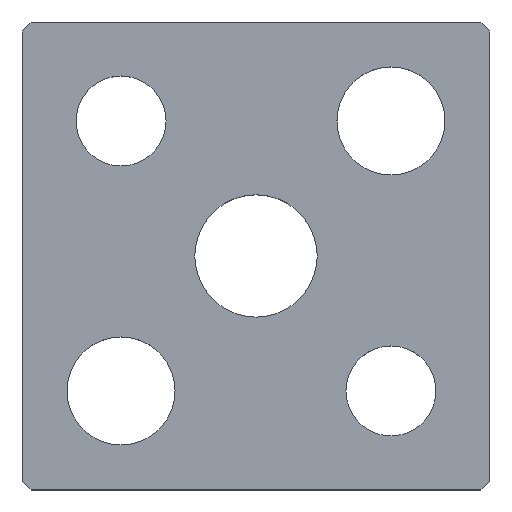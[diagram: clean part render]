
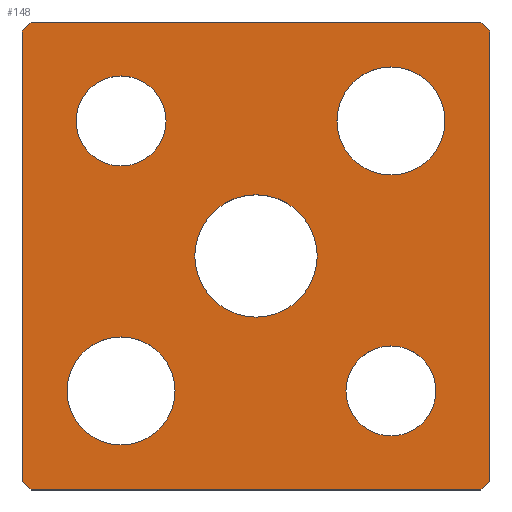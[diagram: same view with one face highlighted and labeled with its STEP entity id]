
A CAD part, top view. The second image highlights one B-rep face of the part: STEP entity #148.
In plain terms, the highlighted planar face has unit normal (0, 0, 1).
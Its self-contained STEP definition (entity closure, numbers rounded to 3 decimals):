
#117=CIRCLE('',#503,6.8);
#118=CIRCLE('',#504,6.8);
#119=CIRCLE('',#505,5.);
#120=CIRCLE('',#506,5.);
#121=CIRCLE('',#507,6.);
#122=CIRCLE('',#508,6.);
#123=CIRCLE('',#509,6.);
#124=CIRCLE('',#510,6.);
#125=CIRCLE('',#511,5.);
#126=CIRCLE('',#512,5.);
#133=FACE_BOUND('',#201,.T.);
#134=FACE_BOUND('',#202,.T.);
#135=FACE_BOUND('',#203,.T.);
#136=FACE_BOUND('',#204,.T.);
#137=FACE_BOUND('',#205,.T.);
#138=FACE_BOUND('',#206,.T.);
#148=ADVANCED_FACE('',(#133,#134,#135,#136,#137,#138),#168,.T.);
#168=PLANE('',#513);
#201=EDGE_LOOP('',(#267,#268,#269,#270,#271,#272,#273,#274));
#202=EDGE_LOOP('',(#275,#276));
#203=EDGE_LOOP('',(#277,#278));
#204=EDGE_LOOP('',(#279,#280));
#205=EDGE_LOOP('',(#281,#282));
#206=EDGE_LOOP('',(#283,#284));
#267=ORIENTED_EDGE('',*,*,#362,.T.);
#268=ORIENTED_EDGE('',*,*,#366,.T.);
#269=ORIENTED_EDGE('',*,*,#369,.T.);
#270=ORIENTED_EDGE('',*,*,#372,.T.);
#271=ORIENTED_EDGE('',*,*,#375,.T.);
#272=ORIENTED_EDGE('',*,*,#378,.T.);
#273=ORIENTED_EDGE('',*,*,#381,.T.);
#274=ORIENTED_EDGE('',*,*,#384,.T.);
#275=ORIENTED_EDGE('',*,*,#395,.T.);
#276=ORIENTED_EDGE('',*,*,#396,.T.);
#277=ORIENTED_EDGE('',*,*,#397,.T.);
#278=ORIENTED_EDGE('',*,*,#398,.T.);
#279=ORIENTED_EDGE('',*,*,#399,.T.);
#280=ORIENTED_EDGE('',*,*,#400,.T.);
#281=ORIENTED_EDGE('',*,*,#401,.T.);
#282=ORIENTED_EDGE('',*,*,#402,.T.);
#283=ORIENTED_EDGE('',*,*,#403,.T.);
#284=ORIENTED_EDGE('',*,*,#404,.T.);
#326=VERTEX_POINT('',#643);
#327=VERTEX_POINT('',#645);
#330=VERTEX_POINT('',#652);
#332=VERTEX_POINT('',#658);
#334=VERTEX_POINT('',#664);
#336=VERTEX_POINT('',#670);
#338=VERTEX_POINT('',#676);
#340=VERTEX_POINT('',#682);
#351=VERTEX_POINT('',#711);
#352=VERTEX_POINT('',#712);
#353=VERTEX_POINT('',#715);
#354=VERTEX_POINT('',#716);
#355=VERTEX_POINT('',#719);
#356=VERTEX_POINT('',#720);
#357=VERTEX_POINT('',#723);
#358=VERTEX_POINT('',#724);
#359=VERTEX_POINT('',#727);
#360=VERTEX_POINT('',#728);
#362=EDGE_CURVE('',#327,#326,#416,.T.);
#366=EDGE_CURVE('',#326,#330,#420,.T.);
#369=EDGE_CURVE('',#330,#332,#423,.T.);
#372=EDGE_CURVE('',#332,#334,#426,.T.);
#375=EDGE_CURVE('',#334,#336,#429,.T.);
#378=EDGE_CURVE('',#336,#338,#432,.T.);
#381=EDGE_CURVE('',#338,#340,#435,.T.);
#384=EDGE_CURVE('',#340,#327,#438,.T.);
#395=EDGE_CURVE('',#351,#352,#117,.T.);
#396=EDGE_CURVE('',#352,#351,#118,.T.);
#397=EDGE_CURVE('',#353,#354,#119,.T.);
#398=EDGE_CURVE('',#354,#353,#120,.T.);
#399=EDGE_CURVE('',#355,#356,#121,.T.);
#400=EDGE_CURVE('',#356,#355,#122,.T.);
#401=EDGE_CURVE('',#357,#358,#123,.T.);
#402=EDGE_CURVE('',#358,#357,#124,.T.);
#403=EDGE_CURVE('',#359,#360,#125,.T.);
#404=EDGE_CURVE('',#360,#359,#126,.T.);
#416=LINE('',#644,#450);
#420=LINE('',#653,#454);
#423=LINE('',#659,#457);
#426=LINE('',#665,#460);
#429=LINE('',#671,#463);
#432=LINE('',#677,#466);
#435=LINE('',#683,#469);
#438=LINE('',#687,#472);
#450=VECTOR('',#527,1.);
#454=VECTOR('',#533,1.);
#457=VECTOR('',#538,1.);
#460=VECTOR('',#543,1.);
#463=VECTOR('',#548,1.);
#466=VECTOR('',#553,1.);
#469=VECTOR('',#558,1.);
#472=VECTOR('',#563,1.);
#503=AXIS2_PLACEMENT_3D('',#710,#588,#589);
#504=AXIS2_PLACEMENT_3D('',#713,#590,#591);
#505=AXIS2_PLACEMENT_3D('',#714,#592,#593);
#506=AXIS2_PLACEMENT_3D('',#717,#594,#595);
#507=AXIS2_PLACEMENT_3D('',#718,#596,#597);
#508=AXIS2_PLACEMENT_3D('',#721,#598,#599);
#509=AXIS2_PLACEMENT_3D('',#722,#600,#601);
#510=AXIS2_PLACEMENT_3D('',#725,#602,#603);
#511=AXIS2_PLACEMENT_3D('',#726,#604,#605);
#512=AXIS2_PLACEMENT_3D('',#729,#606,#607);
#513=AXIS2_PLACEMENT_3D('',#730,#608,#609);
#527=DIRECTION('',(0.707,-0.707,0.));
#533=DIRECTION('',(1.,0.,0.));
#538=DIRECTION('',(0.707,0.707,0.));
#543=DIRECTION('',(0.,1.,0.));
#548=DIRECTION('',(-0.707,0.707,0.));
#553=DIRECTION('',(-1.,0.,0.));
#558=DIRECTION('',(-0.707,-0.707,0.));
#563=DIRECTION('',(0.,-1.,0.));
#588=DIRECTION('',(0.,0.,-1.));
#589=DIRECTION('',(-1.,0.,0.));
#590=DIRECTION('',(0.,0.,-1.));
#591=DIRECTION('',(1.,0.,0.));
#592=DIRECTION('',(0.,0.,-1.));
#593=DIRECTION('',(-1.,0.,0.));
#594=DIRECTION('',(0.,0.,-1.));
#595=DIRECTION('',(1.,0.,0.));
#596=DIRECTION('',(0.,0.,-1.));
#597=DIRECTION('',(-1.,0.,0.));
#598=DIRECTION('',(0.,0.,-1.));
#599=DIRECTION('',(1.,0.,0.));
#600=DIRECTION('',(0.,0.,-1.));
#601=DIRECTION('',(-1.,0.,0.));
#602=DIRECTION('',(0.,0.,-1.));
#603=DIRECTION('',(1.,0.,0.));
#604=DIRECTION('',(0.,0.,-1.));
#605=DIRECTION('',(-1.,0.,0.));
#606=DIRECTION('',(0.,0.,-1.));
#607=DIRECTION('',(1.,0.,0.));
#608=DIRECTION('',(0.,0.,1.));
#609=DIRECTION('',(0.,-1.,0.));
#643=CARTESIAN_POINT('',(-25.,-26.,5.));
#644=CARTESIAN_POINT('',(-26.,-25.,5.));
#645=CARTESIAN_POINT('',(-26.,-25.,5.));
#652=CARTESIAN_POINT('',(25.,-26.,5.));
#653=CARTESIAN_POINT('',(-25.,-26.,5.));
#658=CARTESIAN_POINT('',(26.,-25.,5.));
#659=CARTESIAN_POINT('',(26.,-25.,5.));
#664=CARTESIAN_POINT('',(26.,25.,5.));
#665=CARTESIAN_POINT('',(26.,25.,5.));
#670=CARTESIAN_POINT('',(25.,26.,5.));
#671=CARTESIAN_POINT('',(25.,26.,5.));
#676=CARTESIAN_POINT('',(-25.,26.,5.));
#677=CARTESIAN_POINT('',(-25.,26.,5.));
#682=CARTESIAN_POINT('',(-26.,25.,5.));
#683=CARTESIAN_POINT('',(-26.,25.,5.));
#687=CARTESIAN_POINT('',(-26.,25.,5.));
#710=CARTESIAN_POINT('',(0.,0.,5.));
#711=CARTESIAN_POINT('',(0.,6.8,5.));
#712=CARTESIAN_POINT('',(0.,-6.8,5.));
#713=CARTESIAN_POINT('',(0.,0.,5.));
#714=CARTESIAN_POINT('',(-15.,15.,5.));
#715=CARTESIAN_POINT('',(-15.,20.,5.));
#716=CARTESIAN_POINT('',(-15.,10.,5.));
#717=CARTESIAN_POINT('',(-15.,15.,5.));
#718=CARTESIAN_POINT('',(15.,15.,5.));
#719=CARTESIAN_POINT('',(15.,21.,5.));
#720=CARTESIAN_POINT('',(15.,9.,5.));
#721=CARTESIAN_POINT('',(15.,15.,5.));
#722=CARTESIAN_POINT('',(-15.,-15.,5.));
#723=CARTESIAN_POINT('',(-15.,-9.,5.));
#724=CARTESIAN_POINT('',(-15.,-21.,5.));
#725=CARTESIAN_POINT('',(-15.,-15.,5.));
#726=CARTESIAN_POINT('',(15.,-15.,5.));
#727=CARTESIAN_POINT('',(15.,-10.,5.));
#728=CARTESIAN_POINT('',(15.,-20.,5.));
#729=CARTESIAN_POINT('',(15.,-15.,5.));
#730=CARTESIAN_POINT('',(-26.,-25.,5.));
